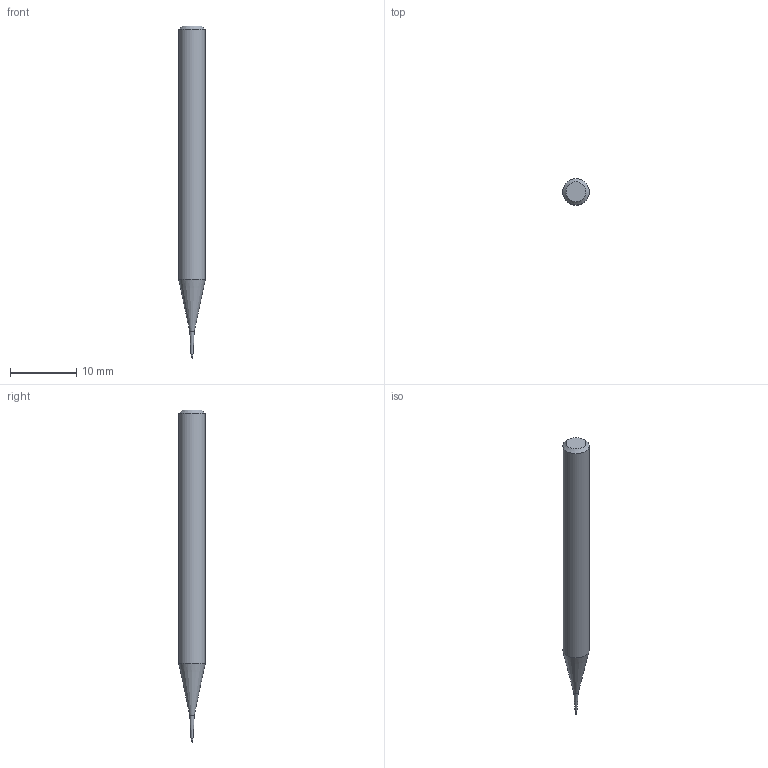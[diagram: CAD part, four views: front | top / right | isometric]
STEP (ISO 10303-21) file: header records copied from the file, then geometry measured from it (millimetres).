
FILE_DESCRIPTION((''),'2;1');
FILE_NAME('C:\Users\nsx150\AppData\Local\Temp\Mastercam 2021\SNAKH10GOD\TEMP.step','2021-10-21T13:30:52',(''),(''),'STEP Write','Mastercam 2021 ... CNC Software, Inc.','');
FILE_SCHEMA(('AUTOMOTIVE_DESIGN'));
Length unit declared in the file: millimetre
Products named in the file (1): None
Bounding box: 4 x 4 x 50 mm (x, y, z)
Volume: 518.1 mm3; surface area: 552.8 mm2
Topology: 2 solids, 2 shells, 10 faces, 16 edges, 9 vertices
Faces by surface type: plane 3, cylinder 3, cone 3, sphere 1
Full cylindrical faces by diameter (mm): 0.295 x1, 0.3 x1, 4 x1
Entity records: 232 total; most frequent: DIRECTION 40, CARTESIAN_POINT 28, AXIS2_PLACEMENT_3D 20, ORIENTED_EDGE 16, EDGE_LOOP 16, STYLED_ITEM 13, ADVANCED_FACE 10, FACE_BOUND 9
